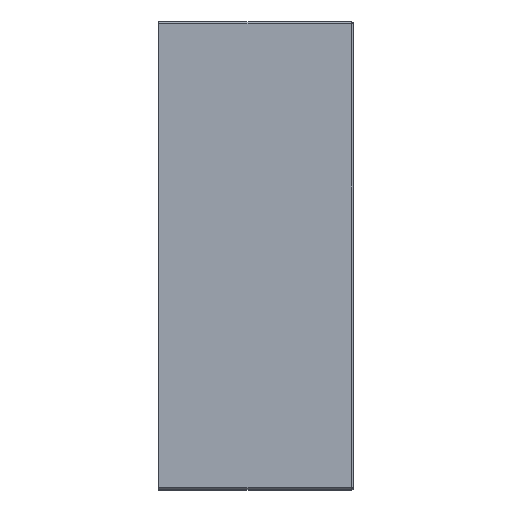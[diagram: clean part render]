
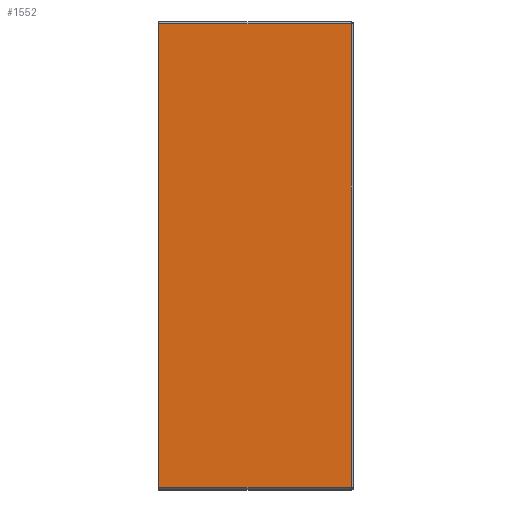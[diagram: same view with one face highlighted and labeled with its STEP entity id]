
A CAD part, top view. The second image highlights one B-rep face of the part: STEP entity #1552.
In plain terms, the highlighted planar face has unit normal (0, 0, 1).
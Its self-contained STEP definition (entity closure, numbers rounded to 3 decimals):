
#13 = VERTEX_POINT ( 'NONE', #988 ) ;
#115 = CARTESIAN_POINT ( 'NONE',  ( 50., 72.5, 65. ) ) ;
#125 = PLANE ( 'NONE',  #894 ) ;
#195 = CARTESIAN_POINT ( 'NONE',  ( 49.5, 72., 65. ) ) ;
#196 = CARTESIAN_POINT ( 'NONE',  ( 49.5, -47., 65. ) ) ;
#197 = CARTESIAN_POINT ( 'NONE',  ( 0., -47., 65. ) ) ;
#311 = DIRECTION ( 'NONE',  ( 0., -1., 0. ) ) ;
#312 = CARTESIAN_POINT ( 'NONE',  ( 0., 72.5, 65. ) ) ;
#339 = DIRECTION ( 'NONE',  ( 1., 0., 0. ) ) ;
#340 = CARTESIAN_POINT ( 'NONE',  ( 50., -47., 65. ) ) ;
#396 = DIRECTION ( 'NONE',  ( -1., 0., 0. ) ) ;
#402 = CARTESIAN_POINT ( 'NONE',  ( 50., 72., 65. ) ) ;
#458 = DIRECTION ( 'NONE',  ( 0., 1., 0. ) ) ;
#459 = CARTESIAN_POINT ( 'NONE',  ( 49.5, 72.5, 65. ) ) ;
#736 = EDGE_CURVE ( 'NONE', #978, #979, #1320, .T. ) ;
#762 = EDGE_CURVE ( 'NONE', #979, #13, #1364, .T. ) ;
#772 = EDGE_CURVE ( 'NONE', #977, #978, #1376, .T. ) ;
#786 = EDGE_CURVE ( 'NONE', #13, #977, #1388, .T. ) ;
#894 = AXIS2_PLACEMENT_3D ( 'NONE', #115, #948, #949 ) ;
#948 = DIRECTION ( 'NONE',  ( 0., 0., -1. ) ) ;
#949 = DIRECTION ( 'NONE',  ( -1., 0., 0. ) ) ;
#977 = VERTEX_POINT ( 'NONE', #197 ) ;
#978 = VERTEX_POINT ( 'NONE', #196 ) ;
#979 = VERTEX_POINT ( 'NONE', #195 ) ;
#988 = CARTESIAN_POINT ( 'NONE',  ( 0., 72., 65. ) ) ;
#1047 = EDGE_LOOP ( 'NONE', ( #1124, #1125, #1126, #1127 ) ) ;
#1124 = ORIENTED_EDGE ( 'NONE', *, *, #786, .T. ) ;
#1125 = ORIENTED_EDGE ( 'NONE', *, *, #772, .T. ) ;
#1126 = ORIENTED_EDGE ( 'NONE', *, *, #736, .T. ) ;
#1127 = ORIENTED_EDGE ( 'NONE', *, *, #762, .T. ) ;
#1320 = LINE ( 'NONE', #459, #1331 ) ;
#1331 = VECTOR ( 'NONE', #458, 1000. ) ;
#1356 = VECTOR ( 'NONE', #396, 1000. ) ;
#1364 = LINE ( 'NONE', #402, #1356 ) ;
#1376 = LINE ( 'NONE', #340, #1377 ) ;
#1377 = VECTOR ( 'NONE', #339, 1000. ) ;
#1380 = VECTOR ( 'NONE', #311, 1000. ) ;
#1388 = LINE ( 'NONE', #312, #1380 ) ;
#1465 = FACE_OUTER_BOUND ( 'NONE', #1047, .T. ) ;
#1552 = ADVANCED_FACE ( 'NONE', ( #1465 ), #125, .F. ) ;
